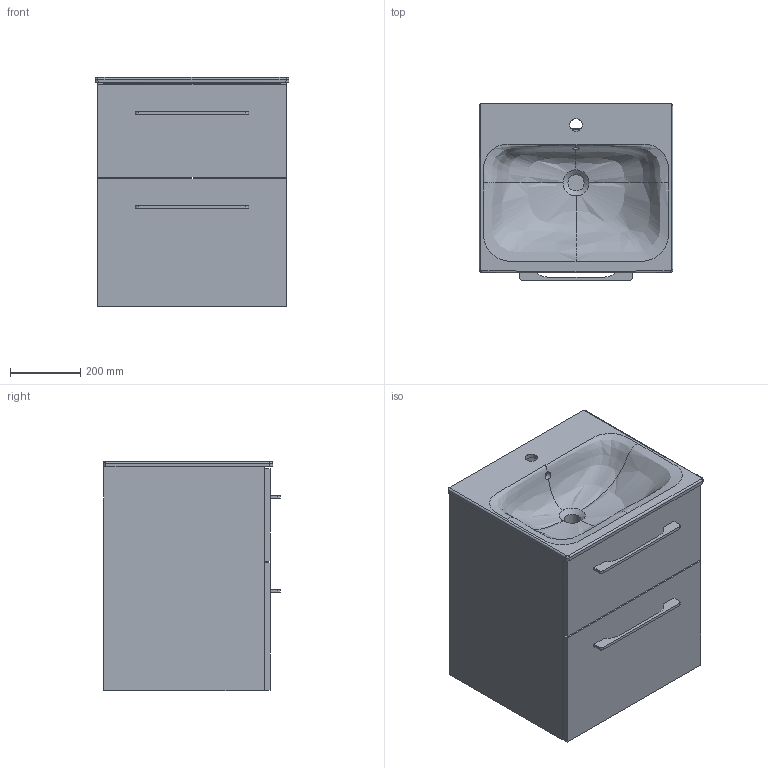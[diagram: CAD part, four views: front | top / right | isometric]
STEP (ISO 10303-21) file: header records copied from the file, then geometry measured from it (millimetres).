
FILE_DESCRIPTION(/* description */ (''),/* implementation_level */ '2;1');
FILE_NAME(/* name */ 'C:\Planerdaten\Export PLA\501.232.00.1\stp\501233.stp',/* time_stamp */ '2020-05-01T05:39:22-07:00',/* author */ ('JANAN'),/* organization */ (''),/* preprocessor_version */ 'ST-DEVELOPER v16.13',/* originating_system */ 'Autodesk Inventor 2018',/* authorisation */ '');
FILE_SCHEMA (('AUTOMOTIVE_DESIGN { 1 0 10303 214 3 1 1 }'));
Length unit declared in the file: millimetre
Products named in the file (3): US-f-1-WB w/ VB Ge+SnvS B55 2-Sbl lav; MWT Ge+SnvS B55 sLR m/ÜLF m/HLo; US-f-1-WB Ge+SnvS B55 2-Sbl w
Assembly tree (2 placements, depth 2):
  US-f-1-WB w/ VB Ge+SnvS B55 2-Sbl lav
    MWT Ge+SnvS B55 sLR m/ÜLF m/HLo
    US-f-1-WB Ge+SnvS B55 2-Sbl w
Bounding box: 551.06 x 502 x 651.5 mm (x, y, z)
Volume: 33642552.8 mm3; surface area: 4326061.6 mm2
Topology: 4 solids, 4 shells, 195 faces, 514 edges, 324 vertices
Faces by surface type: plane 88, bspline 64, cylinder 34, cone 4, torus 3, sphere 2
Full cylindrical faces by diameter (mm): 22 x1, 35 x1, 46 x1
Entity records: 18009 total; most frequent: CARTESIAN_POINT 13333, ORIENTED_EDGE 998, DIRECTION 774, EDGE_CURVE 499, VERTEX_POINT 320, AXIS2_PLACEMENT_3D 259, LINE 256, VECTOR 256
